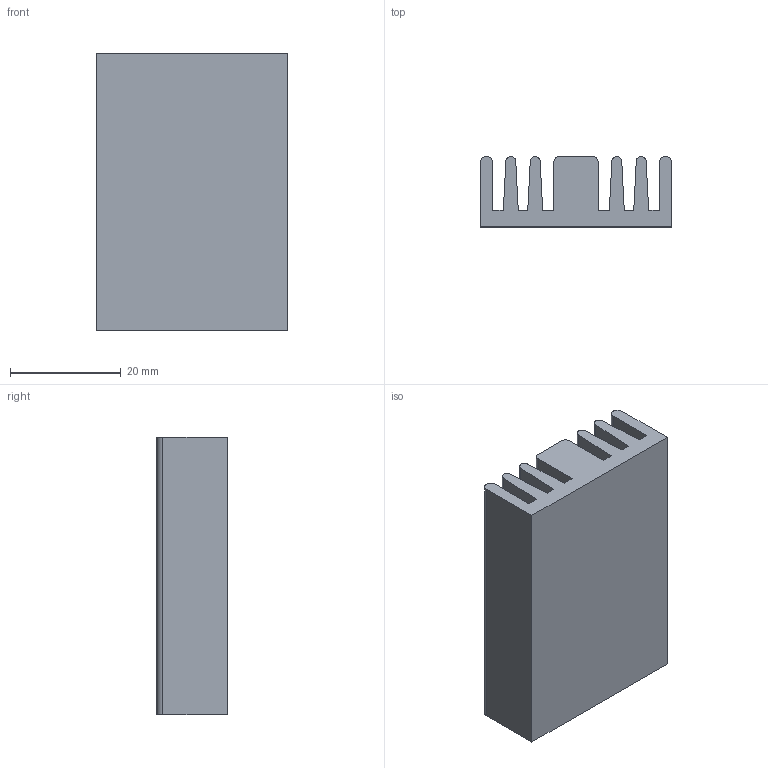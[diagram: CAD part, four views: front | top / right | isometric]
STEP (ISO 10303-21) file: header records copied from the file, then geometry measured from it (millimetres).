
FILE_DESCRIPTION (( 'STEP AP203' ), '1' );
FILE_NAME ('PR 36-50.step', '2002-10-21T08:52:42', ( 'Wolfgang Müller' ), ( 'DPS' ), 'SwSTEP 2.0', 'SolidWorks 2002264', '' );
FILE_SCHEMA (( 'CONFIG_CONTROL_DESIGN' ));
Length unit declared in the file: millimetre
Products named in the file (1): PR 36-50
Bounding box: 34.5 x 12.7 x 50 mm (x, y, z)
Volume: 15322.7 mm3; surface area: 10684.6 mm2
Topology: 1 solids, 1 shells, 32 faces, 90 edges, 60 vertices
Faces by surface type: plane 24, cylinder 8
Entity records: 1107 total; most frequent: CARTESIAN_POINT 183, ORIENTED_EDGE 180, DIRECTION 172, EDGE_CURVE 90, LINE 74, VECTOR 74, VERTEX_POINT 60, AXIS2_PLACEMENT_3D 49
